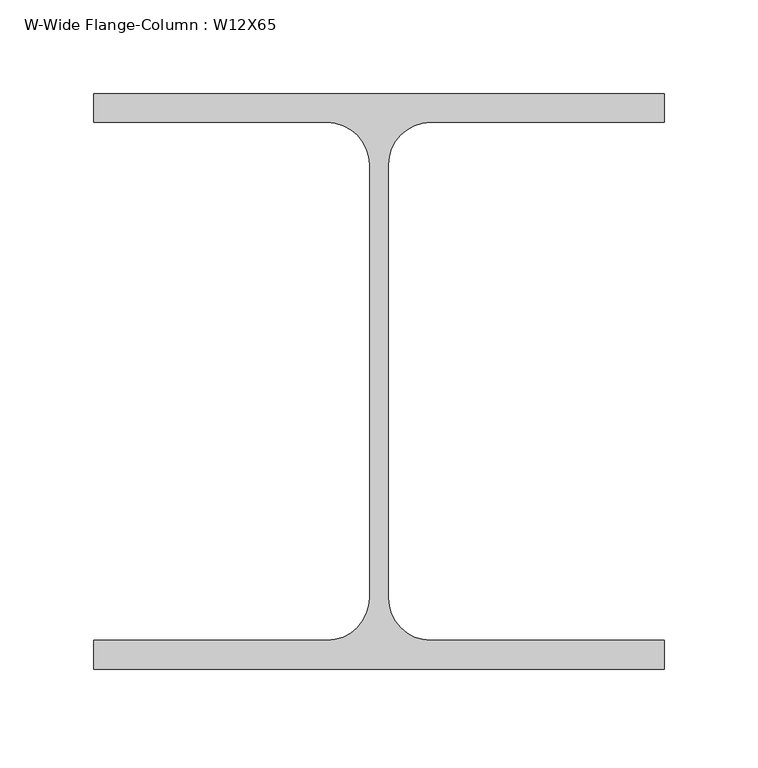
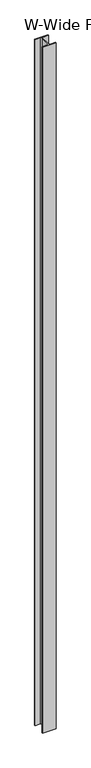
"""IFC4 building model written with IfcOpenShell, lengths in millimetres: column geometry, W-Wide Flange-Column : W12X65."""

from ifc_helpers import new_model, si_unit, point, frame_2d, origin, origin_with_axes, place, context, project, spatial, polyline, circle_curve, trimmed, segment, composite_curve, outline, extrude, source, transform, mapped, element, save


def w_wide_flange_column_w12x65_26176f54(model_context):
    return source(origin(), model_context, "Body", "SweptSolid", [
        extrude(outline(composite_curve([segment(polyline([(152.4, 153.67), (152.4, 138.303), (27.686, 138.303)]), True, "CONTINUOUS"), segment(trimmed(circle_curve(frame_2d((27.686, 115.57)), 22.733), [point((27.686, 138.303))], [point((4.953, 115.57))], True, "CARTESIAN"), True, "CONTINUOUS"), segment(polyline([(4.953, 115.57), (4.953, -115.57)]), True, "CONTINUOUS"), segment(trimmed(circle_curve(frame_2d((27.686, -115.57)), 22.733), [point((4.953, -115.57))], [point((27.686, -138.303))], True, "CARTESIAN"), True, "CONTINUOUS"), segment(polyline([(27.686, -138.303), (152.4, -138.303), (152.4, -153.67), (-152.4, -153.67), (-152.4, -138.303), (-27.686, -138.303)]), True, "CONTINUOUS"), segment(trimmed(circle_curve(frame_2d((-27.686, -115.57)), 22.733), [point((-27.686, -138.303))], [point((-4.953, -115.57))], True, "CARTESIAN"), True, "CONTINUOUS"), segment(polyline([(-4.953, -115.57), (-4.953, 115.57)]), True, "CONTINUOUS"), segment(trimmed(circle_curve(frame_2d((-27.686, 115.57)), 22.733), [point((-4.953, 115.57))], [point((-27.686, 138.303))], True, "CARTESIAN"), True, "CONTINUOUS"), segment(polyline([(-27.686, 138.303), (-152.4, 138.303), (-152.4, 153.67), (152.4, 153.67)]), True, "CONTINUOUS")], self_intersect=False)), origin_with_axes(), (0.0, 0.0, 1.0), 16459.2),
    ])


if __name__ == "__main__":
    model = new_model("IFC4")
    model_context = context("Model", 3, world=origin())
    ifc_project = project(units=[si_unit("LENGTHUNIT", "METRE", prefix="MILLI")], contexts=[model_context])
    site = spatial("IfcSite", under=ifc_project)
    building = spatial("IfcBuilding", under=site)
    placement = place(None, origin())
    w_wide_flange_column_w12x65_shape = w_wide_flange_column_w12x65_26176f54(model_context)
    element("IfcColumn", 1, ObjectType="W-Wide Flange-Column : W12X65", at=placement, inside=building, context=model_context, shape_type="MappedRepresentation", body=[
        mapped(w_wide_flange_column_w12x65_shape, transform((0.0, 0.0, 0.0), x_axis=(1.0, 0.0, 0.0), y_axis=(0.0, 1.0, 0.0), z_axis=(0.0, 0.0, 1.0))),
    ])
    save(model, "model.ifc")
